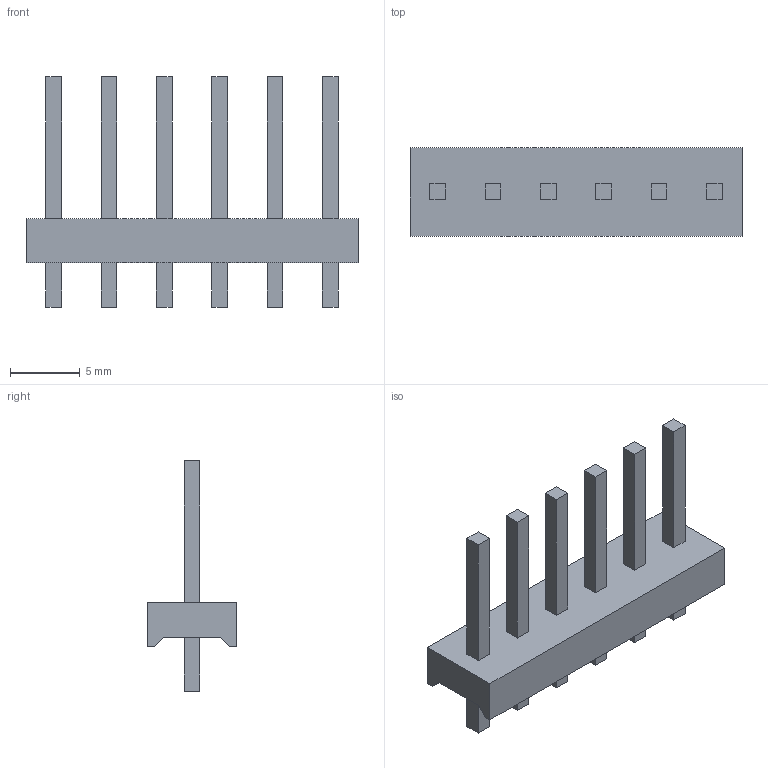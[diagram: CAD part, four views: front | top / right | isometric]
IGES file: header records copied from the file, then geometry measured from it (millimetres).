
Start section:  PTC IGES file: c-3-641203-6-v-3d.igs
Global section: file name: c-3-641203-6-v-3d.igs; native system: Pro/ENGINEER by Parametric Technology Corporation; preprocessor: 2010430; author: workeradm; organization: Unknown; units: millimetre
Bounding box: 23.77 x 6.35 x 16.51 mm (x, y, z)
Surface area: 885.6 mm2 (no closed solid volume)
Topology: 0 solids, 0 shells, 70 faces, 336 edges, 336 vertices
Faces by surface type: bspline 70
